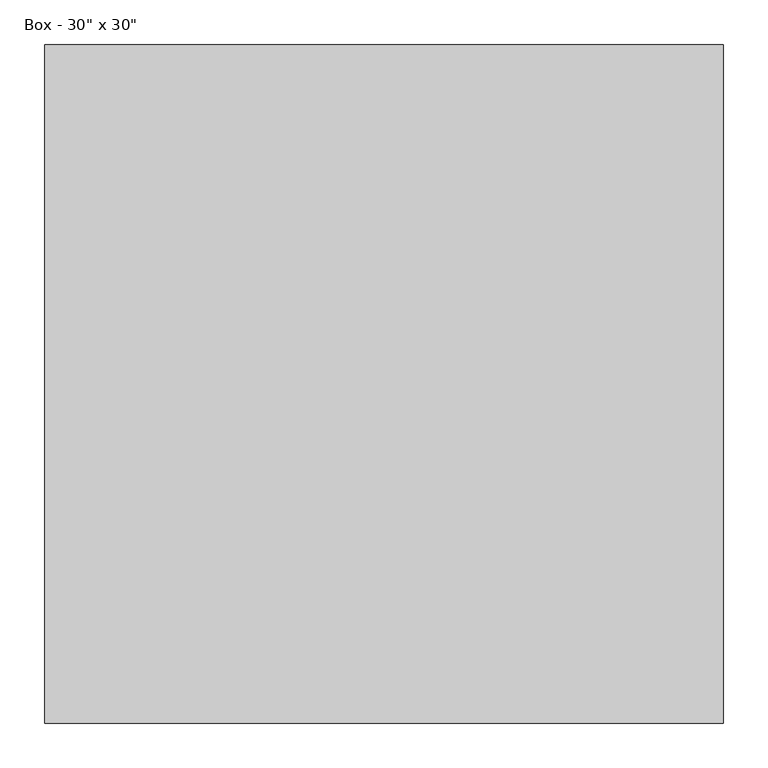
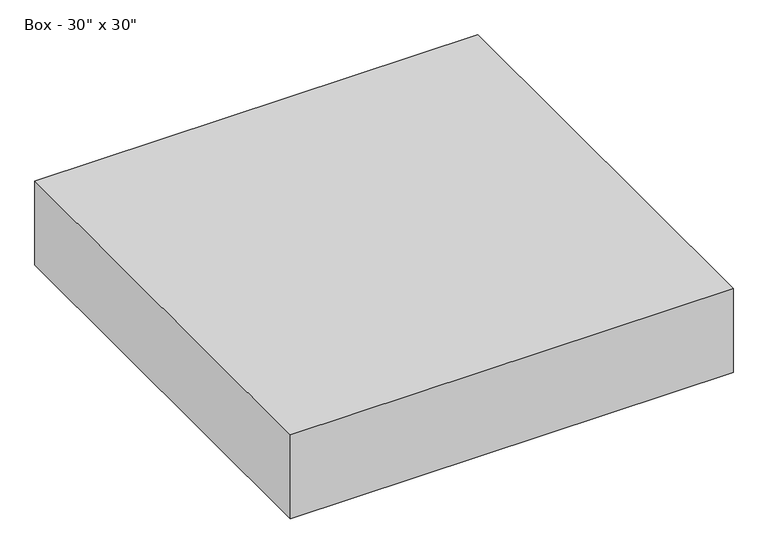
"""IFC4 building model written with IfcOpenShell, lengths in millimetres: furniture geometry."""

import ifcopenshell
import ifcopenshell.guid

model = None  # the IFC model being written
_history = None  # IfcOwnerHistory: only IFC2X3 demands one
_inside = {}  # id of a spatial element -> (the spatial element, [elements in it])
_under = {}  # id of a project, library or spatial element -> (it, [spatial elements below it])
_declared = {}  # id of a project -> (the project, [libraries it declares])
_typed = {}  # id of a type object -> (the type object, [elements of that type])
_made_of = {}  # id of a material, layer set ... -> (it, [elements and type objects made of it])


def new_model(schema):
    """Start an empty IFC model of exactly this schema.

    Asked for "IFC4X3", IfcOpenShell would pick the latest addendum, in which some entities
    have other attributes; the version numbers below select the first issue.
    IFC2X3 requires an IfcOwnerHistory on every rooted entity: one is made here for all.
    """
    global model, _history
    if schema == "IFC4X3":
        model = ifcopenshell.file(schema_version=(4, 3, 0, 0))
    else:
        model = ifcopenshell.file(schema=schema)
    _inside.clear()
    _under.clear()
    _declared.clear()
    _typed.clear()
    _made_of.clear()
    _history = None
    if model.schema == "IFC2X3":
        org = make("IfcOrganization", Name="unknown")
        user = make(
            "IfcPersonAndOrganization",
            ThePerson=make("IfcPerson", FamilyName="unknown"),
            TheOrganization=org,
        )
        app = make(
            "IfcApplication",
            ApplicationDeveloper=org,
            Version="unknown",
            ApplicationFullName="unknown",
            ApplicationIdentifier="unknown",
        )
        _history = make(
            "IfcOwnerHistory",
            OwningUser=user,
            OwningApplication=app,
            ChangeAction="ADDED",
            CreationDate=0,
        )
    return model


def make(cls, **values):
    """One entity of the class cls with the attributes given. An attribute that is None is left unset."""
    return model.create_entity(
        cls, **{name: value for name, value in values.items() if value is not None}
    )


def rooted(cls, **values):
    """An entity with a GlobalId (a new one), such as an element, a storey or a relation."""
    return make(cls, GlobalId=ifcopenshell.guid.new(), OwnerHistory=_history, **values)


def si_unit(unit_type, name, prefix=None):
    """IfcSIUnit, for example si_unit("LENGTHUNIT", "METRE", prefix="MILLI")."""
    return make("IfcSIUnit", UnitType=unit_type, Prefix=prefix, Name=name)


def assignment(units):
    """IfcUnitAssignment: the units of a project."""
    return None if units is None else make("IfcUnitAssignment", Units=units)


def point(xyz):
    """IfcCartesianPoint."""
    return None if xyz is None else make("IfcCartesianPoint", Coordinates=xyz)


def direction(xyz):
    """IfcDirection."""
    return None if xyz is None else make("IfcDirection", DirectionRatios=xyz)


def frame(location, z_axis=None, x_axis=None):
    """IfcAxis2Placement3D, a coordinate frame: its origin and axes. An axis left out is left unset."""
    return make(
        "IfcAxis2Placement3D",
        Location=point(location),
        Axis=direction(z_axis),
        RefDirection=direction(x_axis),
    )


def origin():
    """The frame at (0, 0, 0) with its axes left unset."""
    return frame((0.0, 0.0, 0.0))


def place(relative_to, where):
    """IfcLocalPlacement: puts the frame where relative to a parent placement (None: the world)."""
    return make(
        "IfcLocalPlacement", PlacementRelTo=relative_to, RelativePlacement=where
    )


def context(
    kind, dimensions, precision=None, world=None, true_north=None, identifier=None
):
    """IfcGeometricRepresentationContext, for example the 3D "Model" context."""
    return make(
        "IfcGeometricRepresentationContext",
        ContextIdentifier=identifier,
        ContextType=kind,
        CoordinateSpaceDimension=dimensions,
        Precision=precision,
        WorldCoordinateSystem=world,
        TrueNorth=true_north,
    )


def project(units=None, contexts=None):
    """IfcProject with its units and contexts."""
    return rooted(
        "IfcProject",
        Name="project",
        RepresentationContexts=contexts,
        UnitsInContext=assignment(units),
    )


def spatial(cls, under=None, at=None, **own):
    """A site, building, storey or space (cls), placed at a placement, below another one or the project."""
    s = rooted(cls, ObjectPlacement=at, **own)
    if under is not None:
        _under.setdefault(under.id(), (under, []))[1].append(s)
    return s


def polyline(points):
    """IfcPolyline through the points."""
    return make("IfcPolyline", Points=[point(p) for p in points])


def outline(outer, holes=None, kind="AREA"):
    """IfcArbitraryClosedProfileDef: a profile drawn as a closed curve; with holes, ...WithVoids."""
    if holes is None:
        return make("IfcArbitraryClosedProfileDef", ProfileType=kind, OuterCurve=outer)
    return make(
        "IfcArbitraryProfileDefWithVoids",
        ProfileType=kind,
        OuterCurve=outer,
        InnerCurves=holes,
    )


def extrude(swept, where, along, depth):
    """IfcExtrudedAreaSolid: the profile swept, set in the frame where, extruded along a direction by depth."""
    return make(
        "IfcExtrudedAreaSolid",
        SweptArea=swept,
        Position=where,
        ExtrudedDirection=direction(along),
        Depth=depth,
    )


def shape(context_of_items, identifier, shape_type, items):
    """IfcShapeRepresentation: the items that make up one representation, for example the "Body"."""
    return make(
        "IfcShapeRepresentation",
        ContextOfItems=context_of_items,
        RepresentationIdentifier=identifier,
        RepresentationType=shape_type,
        Items=items,
    )


def source(mapping_origin, context_of_items, identifier, shape_type, items):
    """IfcRepresentationMap: a shape defined once, which mapped items show again and again."""
    return make(
        "IfcRepresentationMap",
        MappingOrigin=mapping_origin,
        MappedRepresentation=shape(context_of_items, identifier, shape_type, items),
    )


def transform(
    local_origin,
    x_axis=None,
    y_axis=None,
    z_axis=None,
    scale=None,
    scale2=None,
    scale3=None,
    uniform=True,
):
    """IfcCartesianTransformationOperator3D, or its non-uniform kind. x_axis, y_axis, z_axis: its Axis1, 2, 3."""
    if uniform:
        return make(
            "IfcCartesianTransformationOperator3D",
            Axis1=direction(x_axis),
            Axis2=direction(y_axis),
            LocalOrigin=point(local_origin),
            Scale=scale,
            Axis3=direction(z_axis),
        )
    return make(
        "IfcCartesianTransformationOperator3DnonUniform",
        Axis1=direction(x_axis),
        Axis2=direction(y_axis),
        LocalOrigin=point(local_origin),
        Scale=scale,
        Axis3=direction(z_axis),
        Scale2=scale2,
        Scale3=scale3,
    )


def mapped(mapping_source, mapping_target):
    """IfcMappedItem: shows the shape of a source again, moved by a transform."""
    return make(
        "IfcMappedItem", MappingSource=mapping_source, MappingTarget=mapping_target
    )


def made_of(thing, what):
    """Note that an element or type object is made of a material, layer set ...; save() writes the relation."""
    if what is not None:
        _made_of.setdefault(what.id(), (what, []))[1].append(thing)
    return thing


def element(
    cls,
    number,
    at=None,
    inside=None,
    cuts=None,
    type_object=None,
    material=None,
    context=None,
    identifier="Body",
    shape_type=None,
    held_by="IfcProductDefinitionShape",
    body=None,
    shapes=None,
    **own,
):
    """One element of the class cls, such as IfcWall. Its Tag is "e" and its number.

    at: its placement. inside: the storey or other place that contains it. cuts: it is an
    opening in that element (IfcRelVoidsElement). A single representation is given by context,
    identifier, shape_type and body (its items); several are given by shapes. held_by: the class
    of the entity that holds the representations. save() writes the other relations.
    """
    e = rooted(cls, Tag="e%d" % number, ObjectPlacement=at, **own)
    if body is not None:
        shapes = [shape(context, identifier, shape_type, body)]
    if shapes is not None:
        e.Representation = make(held_by, Representations=shapes)
    if inside is not None:
        _inside.setdefault(inside.id(), (inside, []))[1].append(e)
    if cuts is not None:
        rooted(
            "IfcRelVoidsElement", RelatingBuildingElement=cuts, RelatedOpeningElement=e
        )
    if type_object is not None:
        _typed.setdefault(type_object.id(), (type_object, []))[1].append(e)
    return made_of(e, material)


def aggregate(whole, parts):
    """IfcRelAggregates: a whole, such as a stair, and the parts it consists of."""
    return rooted("IfcRelAggregates", RelatingObject=whole, RelatedObjects=parts)


def save(model, path):
    """Write the relations noted so far, then the file.

    IfcRelAggregates (storeys below a building ...), IfcRelContainedInSpatialStructure (elements
    in a storey), IfcRelDefinesByType, IfcRelAssociatesMaterial and IfcRelDeclares: one each for
    every whole, place, type object, material and project.
    """
    for whole, parts in _under.values():
        aggregate(whole, parts)
    for where, things in _inside.values():
        rooted(
            "IfcRelContainedInSpatialStructure",
            RelatedElements=things,
            RelatingStructure=where,
        )
    for kind, things in _typed.values():
        rooted("IfcRelDefinesByType", RelatedObjects=things, RelatingType=kind)
    for what, things in _made_of.values():
        rooted("IfcRelAssociatesMaterial", RelatedObjects=things, RelatingMaterial=what)
    for by, libraries in _declared.values():
        rooted("IfcRelDeclares", RelatingContext=by, RelatedDefinitions=libraries)
    model.write(path)


def furniture_d30c1062(model_context):
    return source(origin(), model_context, "Body", "SweptSolid", [
        extrude(outline(polyline([(381.0, 381.0), (381.0, -381.0), (-381.0, -381.0), (-381.0, 381.0), (381.0, 381.0)])), frame((0.0, 0.0, 254.0), z_axis=(0.0, 0.0, 1.0), x_axis=(1.0, 0.0, 0.0)), (0.0, 0.0, 1.0), 152.4),
    ])


if __name__ == "__main__":
    model = new_model("IFC4")
    model_context = context("Model", 3, world=origin())
    ifc_project = project(units=[si_unit("LENGTHUNIT", "METRE", prefix="MILLI")], contexts=[model_context])
    site = spatial("IfcSite", under=ifc_project)
    building = spatial("IfcBuilding", under=site)
    placement = place(None, origin())
    furniture_shape = furniture_d30c1062(model_context)
    element("IfcFurniture", 1, ObjectType="Stylex - Ambi Modular - Box : Box - 30\" x 30\"", at=placement, inside=building, context=model_context, shape_type="MappedRepresentation", body=[
        mapped(furniture_shape, transform((0.0, 0.0, 0.0), x_axis=(1.0, 0.0, 0.0), y_axis=(0.0, 1.0, 0.0), z_axis=(0.0, 0.0, 1.0))),
    ])
    save(model, "model.ifc")
